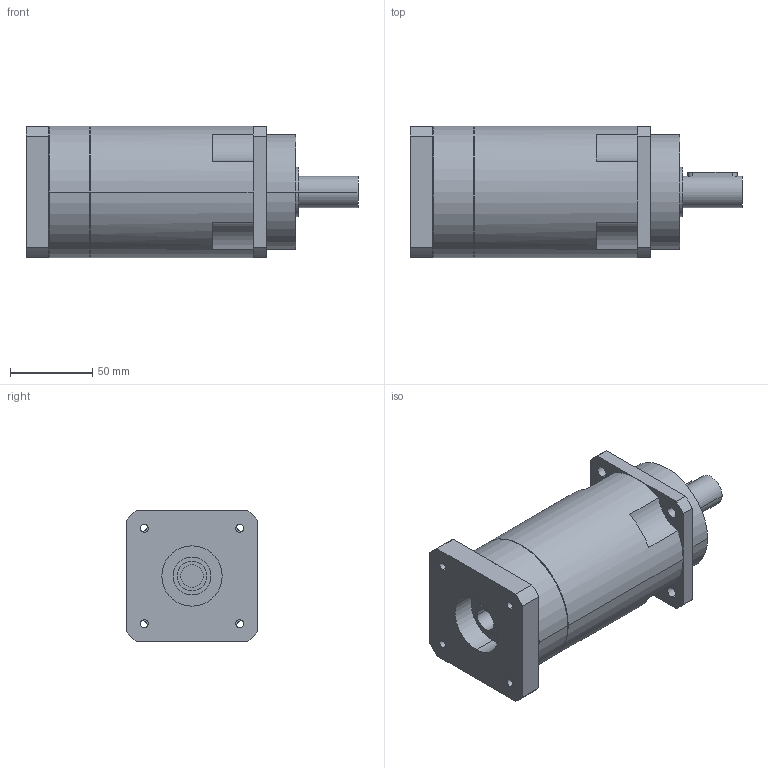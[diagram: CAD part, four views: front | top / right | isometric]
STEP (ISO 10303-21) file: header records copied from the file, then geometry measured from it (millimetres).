
FILE_DESCRIPTION(('CoCreate Modeling STEP Export'),'2;1');
FILE_NAME('GPR100_ig-48-64-80-100-120-144-180-216_19_B5_14_P27.stp','2014-08-26T11:54:49',(''),(''),'CoCreate Modeling STEP processor for AP214 (Solid Model)','CoCreate Modeling 16.00C 25-Feb-2009 (C) Parametric Technology GmbH','');
FILE_SCHEMA(('AUTOMOTIVE_DESIGN { 1 0 10303 214 1 1 1 1 }'));
Length unit declared in the file: millimetre
Products named in the file (2): GPR100_ig-48-64-80-100-120-144-180-216_19_B5_14_P27
Assembly tree (1 placements, depth 2):
  GPR100_ig-48-64-80-100-120-144-180-216_19_B5_14_P27
    GPR100_ig-48-64-80-100-120-144-180-216_19_B5_14_P27
Bounding box: 202.4 x 80 x 80 mm (x, y, z)
Volume: 817139.6 mm3; surface area: 65299.4 mm2
Topology: 1 solids, 1 shells, 90 faces, 262 edges, 178 vertices
Faces by surface type: cylinder 50, plane 34, cone 6
Entity records: 2785 total; most frequent: CARTESIAN_POINT 586, ORIENTED_EDGE 520, DIRECTION 386, EDGE_CURVE 260, VERTEX_POINT 178, AXIS2_PLACEMENT_3D 146, EDGE_LOOP 112, VECTOR 94
